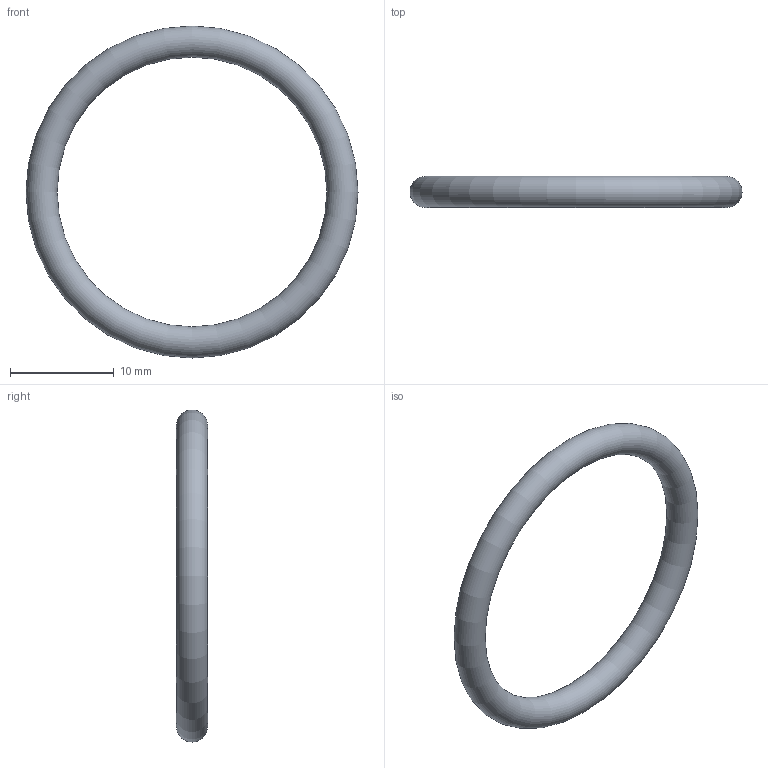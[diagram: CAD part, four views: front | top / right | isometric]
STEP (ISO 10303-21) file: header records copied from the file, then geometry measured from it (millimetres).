
FILE_DESCRIPTION( ( 'STEP AP203' ), '1' );
FILE_NAME( 'C:/Temp/Ganter_Step_05_03_2020/data/3_5/or638/O-Ring OR638-26.00-3.00-70.stp', '2020-03-12T13:44:30', ( 'License CC BY-ND 4.0' ), ( 'CADENAS' ), ' ', 'PARTsolutions', ' ' );
FILE_SCHEMA( ( 'CONFIG_CONTROL_DESIGN' ) );
Length unit declared in the file: millimetre
Products named in the file (1): _O-Ring OR638-26.00-3.00-70
Bounding box: 32 x 3 x 32 mm (x, y, z)
Volume: 644 mm3; surface area: 858.7 mm2
Topology: 1 solids, 1 shells, 1 faces, 2 edges, 1 vertices
Faces by surface type: torus 1
Entity records: 62 total; most frequent: CC_DESIGN_PERSON_AND_ORGANIZATION_ASSIGNMENT 5, PERSON_AND_ORGANIZATION_ROLE 4, DIRECTION 4, CARTESIAN_POINT 3, DATE_TIME_ROLE 2, CC_DESIGN_DATE_AND_TIME_ASSIGNMENT 2, AXIS2_PLACEMENT_3D 2, DIMENSIONAL_EXPONENTS 2
